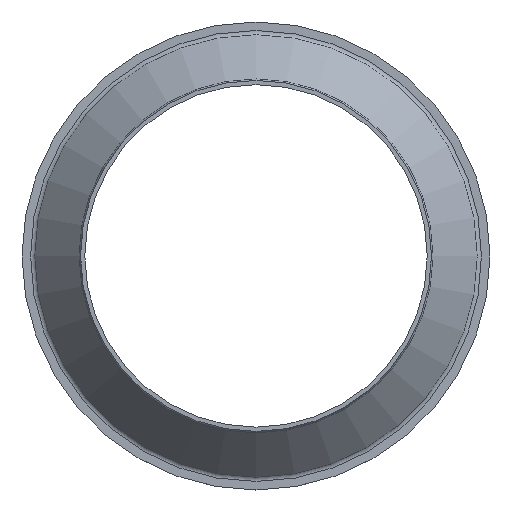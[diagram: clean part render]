
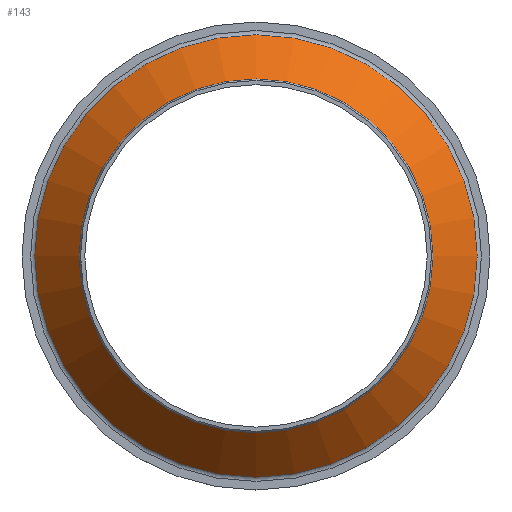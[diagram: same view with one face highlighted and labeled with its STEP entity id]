
A CAD part, top view. The second image highlights one B-rep face of the part: STEP entity #143.
In plain terms, the highlighted conical face has half-angle 41.695 degrees and reference radius 31.003 mm.
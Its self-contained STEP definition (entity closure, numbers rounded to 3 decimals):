
#98=CARTESIAN_POINT('',(38.753,0.,1.635));
#99=VERTEX_POINT('',#98);
#107=CARTESIAN_POINT('',(0.,0.,1.635));
#108=DIRECTION('',(1.,0.,0.));
#109=DIRECTION('',(0.,0.,1.));
#110=AXIS2_PLACEMENT_3D('',#107,#109,#108);
#111=CIRCLE('',#110,38.753);
#112=EDGE_CURVE('',#99,#99,#111,.T.);
#119=CARTESIAN_POINT('',(0.,0.,10.335));
#120=DIRECTION('',(1.,0.,0.));
#121=DIRECTION('',(0.,0.,-1.));
#122=AXIS2_PLACEMENT_3D('',#119,#121,#120);
#123=CONICAL_SURFACE('',#122,31.003,0.728);
#124=CARTESIAN_POINT('',(31.003,0.,10.335));
#125=VERTEX_POINT('',#124);
#126=CARTESIAN_POINT('',(38.753,0.,1.635));
#127=DIRECTION('',(-0.665,0.,0.747));
#128=VECTOR('',#127,11.651);
#129=LINE('',#126,#128);
#130=EDGE_CURVE('',#99,#125,#129,.T.);
#131=ORIENTED_EDGE('E3',*,*,#130,.T.);
#132=CARTESIAN_POINT('',(0.,0.,10.335));
#133=DIRECTION('',(1.,-0.,-0.));
#134=DIRECTION('',(0.,-0.,1.));
#135=AXIS2_PLACEMENT_3D('',#132,#134,#133);
#136=CIRCLE('',#135,31.003);
#137=EDGE_CURVE('',#125,#125,#136,.T.);
#138=ORIENTED_EDGE('E12',*,*,#137,.T.);
#139=ORIENTED_EDGE('E12',*,*,#130,.F.);
#140=ORIENTED_EDGE('E12',*,*,#112,.F.);
#141=EDGE_LOOP('',(#131,#138,#139,#140));
#142=FACE_OUTER_BOUND('',#141,.F.);
#143=ADVANCED_FACE('F5',(#142),#123,.T.);
